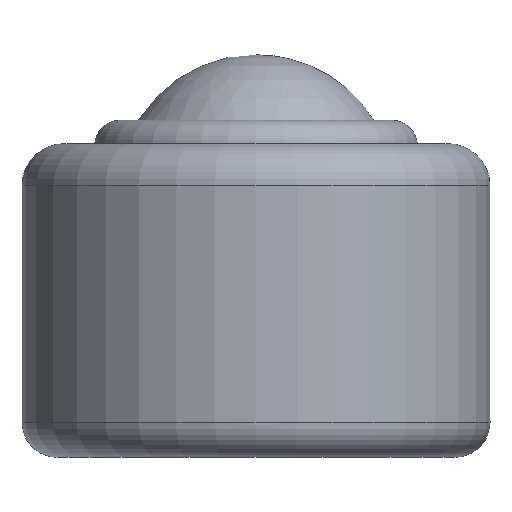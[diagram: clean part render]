
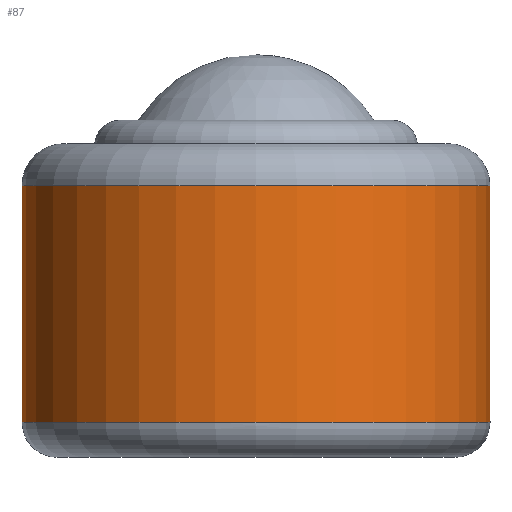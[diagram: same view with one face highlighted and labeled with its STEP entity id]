
A CAD part, front view. The second image highlights one B-rep face of the part: STEP entity #87.
In plain terms, the highlighted cylindrical face has radius 10 mm (diameter 20 mm), a full revolution.
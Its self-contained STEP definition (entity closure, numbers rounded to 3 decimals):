
#23=FACE_BOUND('',#38,.T.);
#29=FACE_OUTER_BOUND('',#37,.T.);
#37=EDGE_LOOP('',(#72));
#38=EDGE_LOOP('',(#73));
#51=CIRCLE('',#98,10.);
#52=CIRCLE('',#99,10.);
#58=VERTEX_POINT('',#146);
#59=VERTEX_POINT('',#148);
#65=EDGE_CURVE('',#58,#58,#51,.T.);
#66=EDGE_CURVE('',#59,#59,#52,.T.);
#72=ORIENTED_EDGE('',*,*,#65,.T.);
#73=ORIENTED_EDGE('',*,*,#66,.F.);
#86=CYLINDRICAL_SURFACE('',#97,10.);
#87=ADVANCED_FACE('',(#29,#23),#86,.T.);
#97=AXIS2_PLACEMENT_3D('',#145,#114,#115);
#98=AXIS2_PLACEMENT_3D('',#147,#116,#117);
#99=AXIS2_PLACEMENT_3D('',#149,#118,#119);
#114=DIRECTION('center_axis',(0.,0.,1.));
#115=DIRECTION('ref_axis',(0.,-1.,0.));
#116=DIRECTION('center_axis',(0.,0.,1.));
#117=DIRECTION('ref_axis',(1.,0.,0.));
#118=DIRECTION('center_axis',(0.,0.,1.));
#119=DIRECTION('ref_axis',(1.,0.,0.));
#145=CARTESIAN_POINT('Origin',(0.,0.,-4.697));
#146=CARTESIAN_POINT('',(0.,-10.,-9.747));
#147=CARTESIAN_POINT('Origin',(0.,0.,-9.747));
#148=CARTESIAN_POINT('',(0.,-10.,0.353));
#149=CARTESIAN_POINT('Origin',(0.,0.,0.353));
